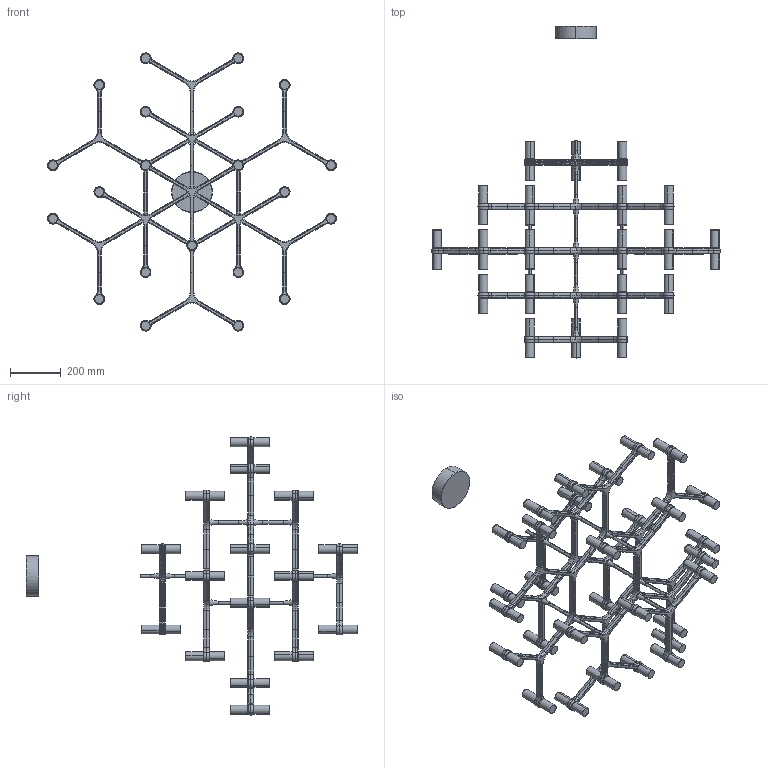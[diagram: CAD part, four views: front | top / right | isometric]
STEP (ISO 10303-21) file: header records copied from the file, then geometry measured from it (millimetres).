
FILE_DESCRIPTION (( 'STEP AP203' ), '1' );
FILE_NAME ('Nemo_Crown Major.STEP', '2012-11-12T11:30:33', ( '' ), ( '' ), 'SwSTEP 2.0', 'SolidWorks 2012', '' );
FILE_SCHEMA (( 'CONFIG_CONTROL_DESIGN' ));
Length unit declared in the file: millimetre
Products named in the file (1): Nemo_Crown Major
Bounding box: 1136.58 x 1306.35 x 1095.21 mm (x, y, z)
Volume: 9140226 mm3; surface area: 1400265.6 mm2
Topology: 2 solids, 2 shells, 2392 faces, 5241 edges, 2904 vertices
Faces by surface type: torus 1052, cylinder 986, plane 322, cone 32
Entity records: 65618 total; most frequent: DIRECTION 13797, CARTESIAN_POINT 10538, ORIENTED_EDGE 10482, AXIS2_PLACEMENT_3D 6163, EDGE_CURVE 5241, CIRCLE 3770, VERTEX_POINT 2904, EDGE_LOOP 2457
